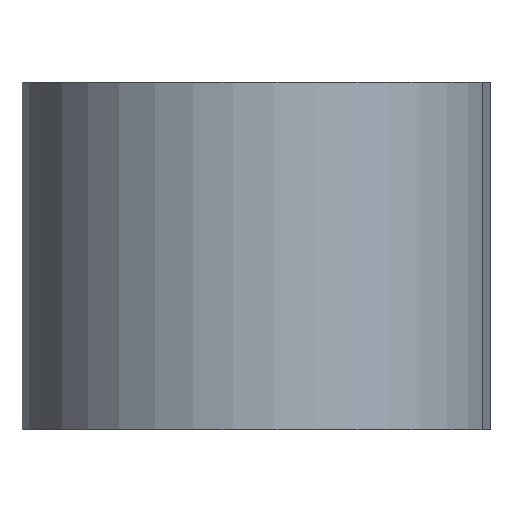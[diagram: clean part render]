
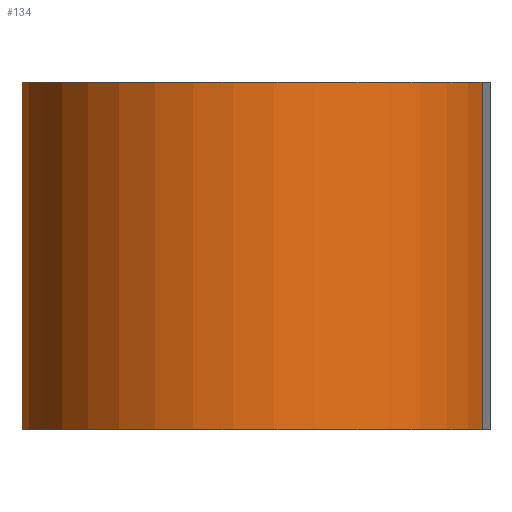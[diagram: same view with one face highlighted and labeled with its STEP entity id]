
A CAD part, front view. The second image highlights one B-rep face of the part: STEP entity #134.
In plain terms, the highlighted cylindrical face has radius 1.35 mm (diameter 2.7 mm), a partial arc.
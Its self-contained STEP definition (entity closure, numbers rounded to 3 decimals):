
#73 = PLANE('',#74);
#74 = AXIS2_PLACEMENT_3D('',#75,#76,#77);
#75 = CARTESIAN_POINT('',(39.,167.,73.631));
#76 = DIRECTION('',(0.,0.,-1.));
#77 = DIRECTION('',(0.963,-0.269,0.));
#123 = PLANE('',#124);
#124 = AXIS2_PLACEMENT_3D('',#125,#126,#127);
#125 = CARTESIAN_POINT('',(39.,167.,71.631));
#126 = DIRECTION('',(0.,0.,-1.));
#127 = DIRECTION('',(0.963,-0.269,0.)
  );
#134 = ADVANCED_FACE('',(#135),#150,.T.);
#135 = FACE_BOUND('',#136,.T.);
#136 = EDGE_LOOP('',(#137,#168,#196,#220));
#137 = ORIENTED_EDGE('',*,*,#138,.F.);
#138 = EDGE_CURVE('',#139,#141,#143,.T.);
#139 = VERTEX_POINT('',#140);
#140 = CARTESIAN_POINT('',(40.3,166.637,
    71.631));
#141 = VERTEX_POINT('',#142);
#142 = CARTESIAN_POINT('',(37.7,167.363,
    71.631));
#143 = SURFACE_CURVE('',#144,(#149,#161),.PCURVE_S1.);
#144 = CIRCLE('',#145,1.35);
#145 = AXIS2_PLACEMENT_3D('',#146,#147,#148);
#146 = CARTESIAN_POINT('',(39.,167.,71.631));
#147 = DIRECTION('',(0.,0.,-1.));
#148 = DIRECTION('',(0.963,-0.269,0.)
  );
#149 = PCURVE('',#150,#155);
#150 = CYLINDRICAL_SURFACE('',#151,1.35);
#151 = AXIS2_PLACEMENT_3D('',#152,#153,#154);
#152 = CARTESIAN_POINT('',(39.,167.,71.631));
#153 = DIRECTION('',(0.,0.,1.));
#154 = DIRECTION('',(-0.963,0.269,0.)
  );
#155 = DEFINITIONAL_REPRESENTATION('',(#156),#160);
#156 = LINE('',#157,#158);
#157 = CARTESIAN_POINT('',(3.142,0.));
#158 = VECTOR('',#159,1.);
#159 = DIRECTION('',(-1.,0.));
#160 = ( GEOMETRIC_REPRESENTATION_CONTEXT(2) 
PARAMETRIC_REPRESENTATION_CONTEXT() REPRESENTATION_CONTEXT('2D SPACE',''
  ) );
#161 = PCURVE('',#123,#162);
#162 = DEFINITIONAL_REPRESENTATION('',(#163),#167);
#163 = CIRCLE('',#164,1.35);
#164 = AXIS2_PLACEMENT_2D('',#165,#166);
#165 = CARTESIAN_POINT('',(0.,0.));
#166 = DIRECTION('',(1.,0.));
#167 = ( GEOMETRIC_REPRESENTATION_CONTEXT(2) 
PARAMETRIC_REPRESENTATION_CONTEXT() REPRESENTATION_CONTEXT('2D SPACE',''
  ) );
#168 = ORIENTED_EDGE('',*,*,#169,.T.);
#169 = EDGE_CURVE('',#139,#170,#172,.T.);
#170 = VERTEX_POINT('',#171);
#171 = CARTESIAN_POINT('',(40.3,166.637,
    73.631));
#172 = SURFACE_CURVE('',#173,(#177,#184),.PCURVE_S1.);
#173 = LINE('',#174,#175);
#174 = CARTESIAN_POINT('',(40.3,166.637,
    71.631));
#175 = VECTOR('',#176,1.);
#176 = DIRECTION('',(0.,0.,1.));
#177 = PCURVE('',#150,#178);
#178 = DEFINITIONAL_REPRESENTATION('',(#179),#183);
#179 = LINE('',#180,#181);
#180 = CARTESIAN_POINT('',(3.142,0.));
#181 = VECTOR('',#182,1.);
#182 = DIRECTION('',(0.,1.));
#183 = ( GEOMETRIC_REPRESENTATION_CONTEXT(2) 
PARAMETRIC_REPRESENTATION_CONTEXT() REPRESENTATION_CONTEXT('2D SPACE',''
  ) );
#184 = PCURVE('',#185,#190);
#185 = CYLINDRICAL_SURFACE('',#186,1.35);
#186 = AXIS2_PLACEMENT_3D('',#187,#188,#189);
#187 = CARTESIAN_POINT('',(39.,167.,71.631));
#188 = DIRECTION('',(0.,0.,1.));
#189 = DIRECTION('',(-0.963,0.269,0.)
  );
#190 = DEFINITIONAL_REPRESENTATION('',(#191),#195);
#191 = LINE('',#192,#193);
#192 = CARTESIAN_POINT('',(3.142,0.));
#193 = VECTOR('',#194,1.);
#194 = DIRECTION('',(0.,1.));
#195 = ( GEOMETRIC_REPRESENTATION_CONTEXT(2) 
PARAMETRIC_REPRESENTATION_CONTEXT() REPRESENTATION_CONTEXT('2D SPACE',''
  ) );
#196 = ORIENTED_EDGE('',*,*,#197,.T.);
#197 = EDGE_CURVE('',#170,#198,#200,.T.);
#198 = VERTEX_POINT('',#199);
#199 = CARTESIAN_POINT('',(37.7,167.363,
    73.631));
#200 = SURFACE_CURVE('',#201,(#206,#213),.PCURVE_S1.);
#201 = CIRCLE('',#202,1.35);
#202 = AXIS2_PLACEMENT_3D('',#203,#204,#205);
#203 = CARTESIAN_POINT('',(39.,167.,73.631));
#204 = DIRECTION('',(0.,0.,-1.));
#205 = DIRECTION('',(0.963,-0.269,0.)
  );
#206 = PCURVE('',#150,#207);
#207 = DEFINITIONAL_REPRESENTATION('',(#208),#212);
#208 = LINE('',#209,#210);
#209 = CARTESIAN_POINT('',(3.142,2.));
#210 = VECTOR('',#211,1.);
#211 = DIRECTION('',(-1.,0.));
#212 = ( GEOMETRIC_REPRESENTATION_CONTEXT(2) 
PARAMETRIC_REPRESENTATION_CONTEXT() REPRESENTATION_CONTEXT('2D SPACE',''
  ) );
#213 = PCURVE('',#73,#214);
#214 = DEFINITIONAL_REPRESENTATION('',(#215),#219);
#215 = CIRCLE('',#216,1.35);
#216 = AXIS2_PLACEMENT_2D('',#217,#218);
#217 = CARTESIAN_POINT('',(0.,0.));
#218 = DIRECTION('',(1.,0.));
#219 = ( GEOMETRIC_REPRESENTATION_CONTEXT(2) 
PARAMETRIC_REPRESENTATION_CONTEXT() REPRESENTATION_CONTEXT('2D SPACE',''
  ) );
#220 = ORIENTED_EDGE('',*,*,#221,.F.);
#221 = EDGE_CURVE('',#141,#198,#222,.T.);
#222 = SURFACE_CURVE('',#223,(#227,#234),.PCURVE_S1.);
#223 = LINE('',#224,#225);
#224 = CARTESIAN_POINT('',(37.7,167.363,
    71.631));
#225 = VECTOR('',#226,1.);
#226 = DIRECTION('',(0.,0.,1.));
#227 = PCURVE('',#150,#228);
#228 = DEFINITIONAL_REPRESENTATION('',(#229),#233);
#229 = LINE('',#230,#231);
#230 = CARTESIAN_POINT('',(0.,0.));
#231 = VECTOR('',#232,1.);
#232 = DIRECTION('',(0.,1.));
#233 = ( GEOMETRIC_REPRESENTATION_CONTEXT(2) 
PARAMETRIC_REPRESENTATION_CONTEXT() REPRESENTATION_CONTEXT('2D SPACE',''
  ) );
#234 = PCURVE('',#185,#235);
#235 = DEFINITIONAL_REPRESENTATION('',(#236),#240);
#236 = LINE('',#237,#238);
#237 = CARTESIAN_POINT('',(6.283,0.));
#238 = VECTOR('',#239,1.);
#239 = DIRECTION('',(0.,1.));
#240 = ( GEOMETRIC_REPRESENTATION_CONTEXT(2) 
PARAMETRIC_REPRESENTATION_CONTEXT() REPRESENTATION_CONTEXT('2D SPACE',''
  ) );
